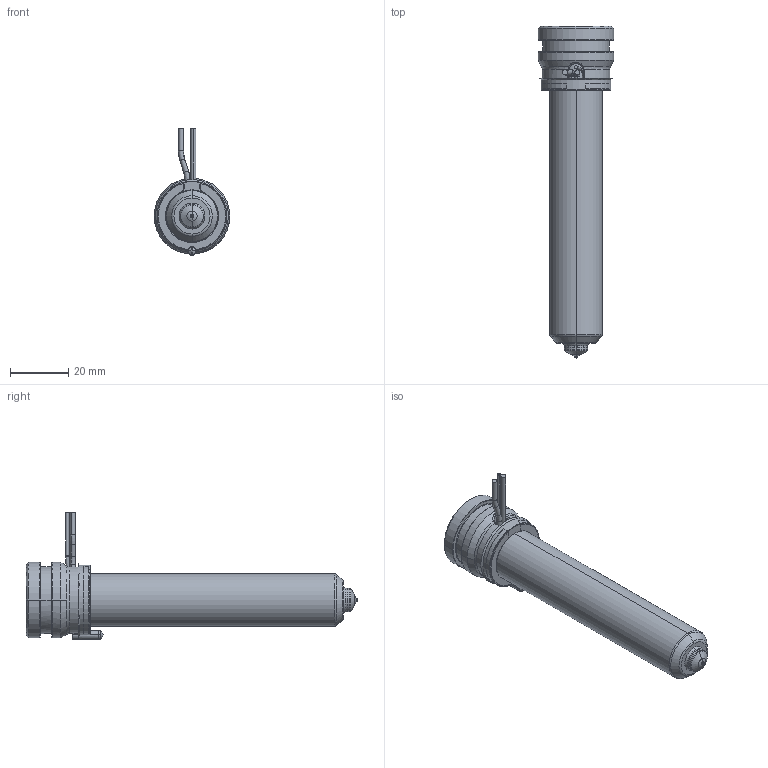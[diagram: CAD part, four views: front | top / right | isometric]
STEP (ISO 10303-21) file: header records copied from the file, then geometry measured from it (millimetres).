
FILE_DESCRIPTION((''),'2;1');
FILE_NAME('MPN-08-24-VSA8-096-A','2026-02-05T12:03:27',('UPTIO'),('Thermoplay S.p.A.'),'CREO PARAMETRIC BY PTC INC, 2023494','CREO PARAMETRIC BY PTC INC, 2023494','');
FILE_SCHEMA(('CONFIG_CONTROL_DESIGN','SHAPE_APPEARANCE_LAYERS_GROUPS'));
Length unit declared in the file: millimetre
Products named in the file (1): MPN-08-24-VSA8-096-A
Bounding box: 26 x 114 x 43.5 mm (x, y, z)
Volume: 22692.1 mm3; surface area: 28562.6 mm2
Topology: 2 solids, 3 shells, 543 faces, 1440 edges, 895 vertices
Faces by surface type: cylinder 182, plane 143, bspline 80, torus 62, cone 60, sphere 10, extrusion 6
Entity records: 28660 total; most frequent: CARTESIAN_POINT 12462, ORIENTED_EDGE 2864, DIRECTION 2580, EDGE_CURVE 1432, AXIS2_PLACEMENT_3D 1007, VERTEX_POINT 895, EDGE_LOOP 571, VECTOR 566
